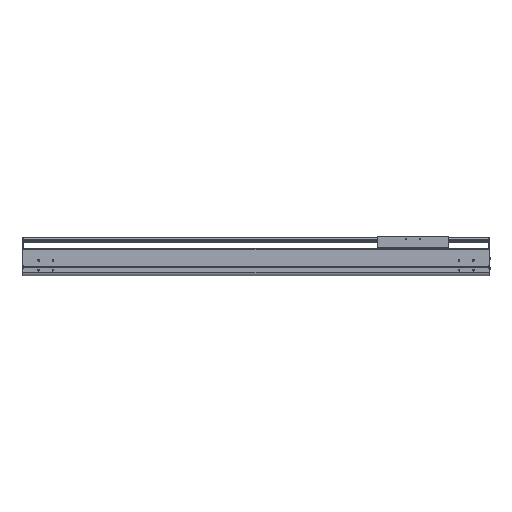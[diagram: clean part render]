
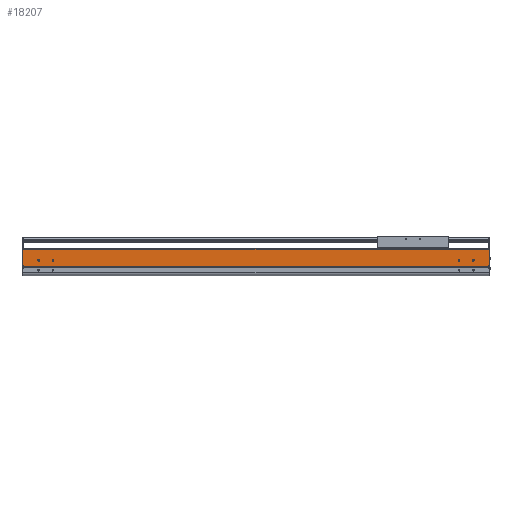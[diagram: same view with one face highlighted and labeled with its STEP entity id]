
A CAD part, top view. The second image highlights one B-rep face of the part: STEP entity #18207.
In plain terms, the highlighted planar face has unit normal (0, 0, 1).
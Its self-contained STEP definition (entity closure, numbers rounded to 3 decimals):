
#506=DIRECTION('',(0.,-1.,0.));
#507=VECTOR('',#506,2.55);
#508=CARTESIAN_POINT('',(0.,34.65,107.));
#509=LINE('',#508,#507);
#2129=DIRECTION('',(1.,0.,0.));
#2130=VECTOR('',#2129,2.);
#2131=CARTESIAN_POINT('',(0.,34.65,107.));
#2132=LINE('',#2131,#2130);
#2137=CARTESIAN_POINT('',(-54.5,54.,107.));
#2138=DIRECTION('',(0.,0.,-1.));
#2139=DIRECTION('',(1.,0.,0.));
#2140=AXIS2_PLACEMENT_3D('',#2137,#2138,#2139);
#2142=CARTESIAN_POINT('',(-54.5,54.,107.));
#2143=DIRECTION('',(0.,0.,-1.));
#2144=DIRECTION('',(-1.,0.,0.));
#2145=AXIS2_PLACEMENT_3D('',#2142,#2143,#2144);
#2147=CARTESIAN_POINT('',(-104.5,54.,107.));
#2148=DIRECTION('',(0.,0.,-1.));
#2149=DIRECTION('',(1.,0.,0.));
#2150=AXIS2_PLACEMENT_3D('',#2147,#2148,#2149);
#2152=CARTESIAN_POINT('',(-104.5,54.,107.));
#2153=DIRECTION('',(0.,0.,-1.));
#2154=DIRECTION('',(-1.,0.,0.));
#2155=AXIS2_PLACEMENT_3D('',#2152,#2153,#2154);
#2157=CARTESIAN_POINT('',(-1584.5,54.,107.));
#2158=DIRECTION('',(0.,0.,-1.));
#2159=DIRECTION('',(1.,0.,0.));
#2160=AXIS2_PLACEMENT_3D('',#2157,#2158,#2159);
#2162=CARTESIAN_POINT('',(-1584.5,54.,107.));
#2163=DIRECTION('',(0.,0.,-1.));
#2164=DIRECTION('',(-1.,0.,0.));
#2165=AXIS2_PLACEMENT_3D('',#2162,#2163,#2164);
#2167=CARTESIAN_POINT('',(-1534.5,54.,107.));
#2168=DIRECTION('',(0.,0.,-1.));
#2169=DIRECTION('',(1.,0.,0.));
#2170=AXIS2_PLACEMENT_3D('',#2167,#2168,#2169);
#2172=CARTESIAN_POINT('',(-1534.5,54.,107.));
#2173=DIRECTION('',(0.,0.,-1.));
#2174=DIRECTION('',(-1.,0.,0.));
#2175=AXIS2_PLACEMENT_3D('',#2172,#2173,#2174);
#2177=DIRECTION('',(0.,-1.,0.));
#2178=VECTOR('',#2177,2.55);
#2179=CARTESIAN_POINT('',(-1639.,34.65,107.));
#2180=LINE('',#2179,#2178);
#2181=DIRECTION('',(0.,-1.,0.));
#2182=VECTOR('',#2181,58.85);
#2183=CARTESIAN_POINT('',(-1641.,93.5,107.));
#2184=LINE('',#2183,#2182);
#2185=DIRECTION('',(0.,1.,0.));
#2186=VECTOR('',#2185,58.85);
#2187=CARTESIAN_POINT('',(2.,34.65,107.));
#2188=LINE('',#2187,#2186);
#2189=DIRECTION('',(1.,0.,0.));
#2190=VECTOR('',#2189,1639.);
#2191=CARTESIAN_POINT('',(-1639.,32.1,107.));
#2192=LINE('',#2191,#2190);
#2301=DIRECTION('',(1.,0.,0.));
#2302=VECTOR('',#2301,2.);
#2303=CARTESIAN_POINT('',(-1641.,34.65,107.));
#2304=LINE('',#2303,#2302);
#2313=DIRECTION('',(-1.,0.,0.));
#2314=VECTOR('',#2313,1643.);
#2315=CARTESIAN_POINT('',(2.,93.5,107.));
#2316=LINE('',#2315,#2314);
#12379=CARTESIAN_POINT('',(-1641.,34.65,107.));
#12380=VERTEX_POINT('',#12379);
#12381=CARTESIAN_POINT('',(-1641.,93.5,107.));
#12382=VERTEX_POINT('',#12381);
#12611=CARTESIAN_POINT('',(-1639.,32.1,107.));
#12612=VERTEX_POINT('',#12611);
#13166=CARTESIAN_POINT('',(0.,32.1,107.));
#13167=VERTEX_POINT('',#13166);
#13168=CARTESIAN_POINT('',(-52.,54.,107.));
#13169=CARTESIAN_POINT('',(-57.,54.,107.));
#13170=VERTEX_POINT('',#13168);
#13171=VERTEX_POINT('',#13169);
#13172=CARTESIAN_POINT('',(-102.,54.,107.));
#13173=CARTESIAN_POINT('',(-107.,54.,107.));
#13174=VERTEX_POINT('',#13172);
#13175=VERTEX_POINT('',#13173);
#13176=CARTESIAN_POINT('',(-1582.,54.,107.));
#13177=CARTESIAN_POINT('',(-1587.,54.,107.));
#13178=VERTEX_POINT('',#13176);
#13179=VERTEX_POINT('',#13177);
#13180=CARTESIAN_POINT('',(-1532.,54.,107.));
#13181=CARTESIAN_POINT('',(-1537.,54.,107.));
#13182=VERTEX_POINT('',#13180);
#13183=VERTEX_POINT('',#13181);
#14353=CARTESIAN_POINT('',(2.,34.65,107.));
#14354=VERTEX_POINT('',#14353);
#14355=CARTESIAN_POINT('',(2.,93.5,107.));
#14356=VERTEX_POINT('',#14355);
#14699=CARTESIAN_POINT('',(0.,34.65,107.));
#14700=VERTEX_POINT('',#14699);
#14887=CARTESIAN_POINT('',(-1639.,34.65,107.));
#14888=VERTEX_POINT('',#14887);
#18165=CARTESIAN_POINT('',(-819.5,62.8,107.));
#18166=DIRECTION('',(0.,0.,1.));
#18167=DIRECTION('',(0.,-1.,0.));
#18168=AXIS2_PLACEMENT_3D('',#18165,#18166,#18167);
#18169=PLANE('',#18168);
#18170=ORIENTED_EDGE('',*,*,#15633,.F.);
#18172=ORIENTED_EDGE('',*,*,#18171,.F.);
#18173=ORIENTED_EDGE('',*,*,#16732,.F.);
#18175=ORIENTED_EDGE('',*,*,#18174,.F.);
#18176=ORIENTED_EDGE('',*,*,#17963,.F.);
#18177=ORIENTED_EDGE('',*,*,#18158,.F.);
#18178=ORIENTED_EDGE('',*,*,#16249,.T.);
#18180=ORIENTED_EDGE('',*,*,#18179,.F.);
#18181=EDGE_LOOP('',(#18170,#18172,#18173,#18175,#18176,#18177,#18178,#18180));
#18182=FACE_OUTER_BOUND('',#18181,.F.);
#18184=ORIENTED_EDGE('',*,*,#18183,.F.);
#18186=ORIENTED_EDGE('',*,*,#18185,.F.);
#18187=EDGE_LOOP('',(#18184,#18186));
#18188=FACE_BOUND('',#18187,.F.);
#18190=ORIENTED_EDGE('',*,*,#18189,.F.);
#18192=ORIENTED_EDGE('',*,*,#18191,.F.);
#18193=EDGE_LOOP('',(#18190,#18192));
#18194=FACE_BOUND('',#18193,.F.);
#18196=ORIENTED_EDGE('',*,*,#18195,.F.);
#18198=ORIENTED_EDGE('',*,*,#18197,.F.);
#18199=EDGE_LOOP('',(#18196,#18198));
#18200=FACE_BOUND('',#18199,.F.);
#18202=ORIENTED_EDGE('',*,*,#18201,.F.);
#18204=ORIENTED_EDGE('',*,*,#18203,.F.);
#18205=EDGE_LOOP('',(#18202,#18204));
#18206=FACE_BOUND('',#18205,.F.);
#18207=ADVANCED_FACE('',(#18182,#18188,#18194,#18200,#18206),#18169,.T.);
#2141=CIRCLE('',#2140,2.5);
#2146=CIRCLE('',#2145,2.5);
#2151=CIRCLE('',#2150,2.5);
#2156=CIRCLE('',#2155,2.5);
#2161=CIRCLE('',#2160,2.5);
#2166=CIRCLE('',#2165,2.5);
#2171=CIRCLE('',#2170,2.5);
#2176=CIRCLE('',#2175,2.5);
#15633=EDGE_CURVE('',#14888,#12612,#2180,.T.);
#16249=EDGE_CURVE('',#14700,#13167,#509,.T.);
#16732=EDGE_CURVE('',#12382,#12380,#2184,.T.);
#17963=EDGE_CURVE('',#14354,#14356,#2188,.T.);
#18158=EDGE_CURVE('',#14700,#14354,#2132,.T.);
#18171=EDGE_CURVE('',#12380,#14888,#2304,.T.);
#18174=EDGE_CURVE('',#14356,#12382,#2316,.T.);
#18179=EDGE_CURVE('',#12612,#13167,#2192,.T.);
#18183=EDGE_CURVE('',#13174,#13175,#2151,.T.);
#18185=EDGE_CURVE('',#13175,#13174,#2156,.T.);
#18189=EDGE_CURVE('',#13178,#13179,#2161,.T.);
#18191=EDGE_CURVE('',#13179,#13178,#2166,.T.);
#18195=EDGE_CURVE('',#13182,#13183,#2171,.T.);
#18197=EDGE_CURVE('',#13183,#13182,#2176,.T.);
#18201=EDGE_CURVE('',#13170,#13171,#2141,.T.);
#18203=EDGE_CURVE('',#13171,#13170,#2146,.T.);
